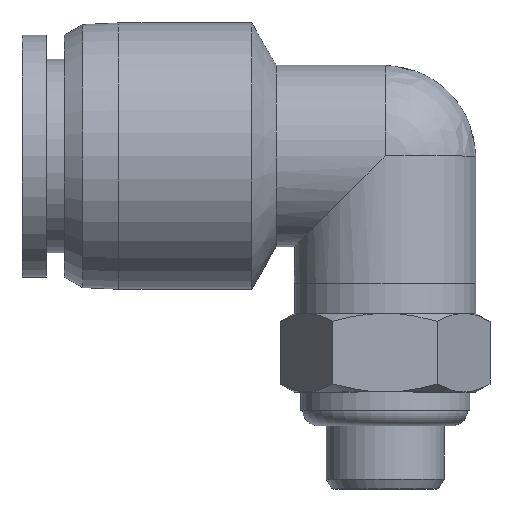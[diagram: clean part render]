
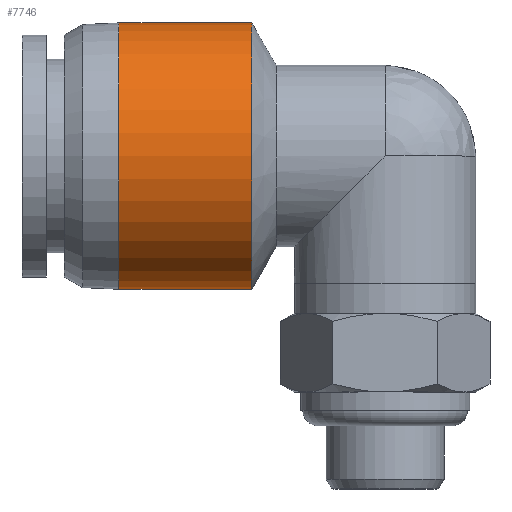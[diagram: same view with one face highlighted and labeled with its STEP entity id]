
A CAD part, top view. The second image highlights one B-rep face of the part: STEP entity #7746.
In plain terms, the highlighted cylindrical face has radius 11 mm (diameter 22 mm), a full revolution.
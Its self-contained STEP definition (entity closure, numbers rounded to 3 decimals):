
#1469=CYLINDRICAL_SURFACE('',#8214,11.);
#1711=FACE_BOUND('',#2208,.T.);
#1758=FACE_OUTER_BOUND('',#2207,.T.);
#2207=EDGE_LOOP('',(#4983));
#2208=EDGE_LOOP('',(#4984));
#2626=CIRCLE('',#8213,11.);
#2627=CIRCLE('',#8215,11.);
#2876=VERTEX_POINT('',#10526);
#2877=VERTEX_POINT('',#10529);
#3705=EDGE_CURVE('',#2876,#2876,#2626,.T.);
#3706=EDGE_CURVE('',#2877,#2877,#2627,.T.);
#4983=ORIENTED_EDGE('',*,*,#3705,.T.);
#4984=ORIENTED_EDGE('',*,*,#3706,.F.);
#7746=ADVANCED_FACE('',(#1758,#1711),#1469,.T.);
#8213=AXIS2_PLACEMENT_3D('',#10527,#8935,#8936);
#8214=AXIS2_PLACEMENT_3D('',#10528,#8937,#8938);
#8215=AXIS2_PLACEMENT_3D('',#10530,#8939,#8940);
#8935=DIRECTION('center_axis',(1.,0.,0.));
#8936=DIRECTION('ref_axis',(0.,0.,-1.));
#8937=DIRECTION('center_axis',(1.,0.,0.));
#8938=DIRECTION('ref_axis',(0.,1.,0.));
#8939=DIRECTION('center_axis',(1.,0.,0.));
#8940=DIRECTION('ref_axis',(0.,0.,-1.));
#10526=CARTESIAN_POINT('',(-22.,11.,0.));
#10527=CARTESIAN_POINT('Origin',(-22.,0.,0.));
#10528=CARTESIAN_POINT('Origin',(-16.51,0.,0.));
#10529=CARTESIAN_POINT('',(-11.021,11.,0.));
#10530=CARTESIAN_POINT('Origin',(-11.021,0.,0.));
